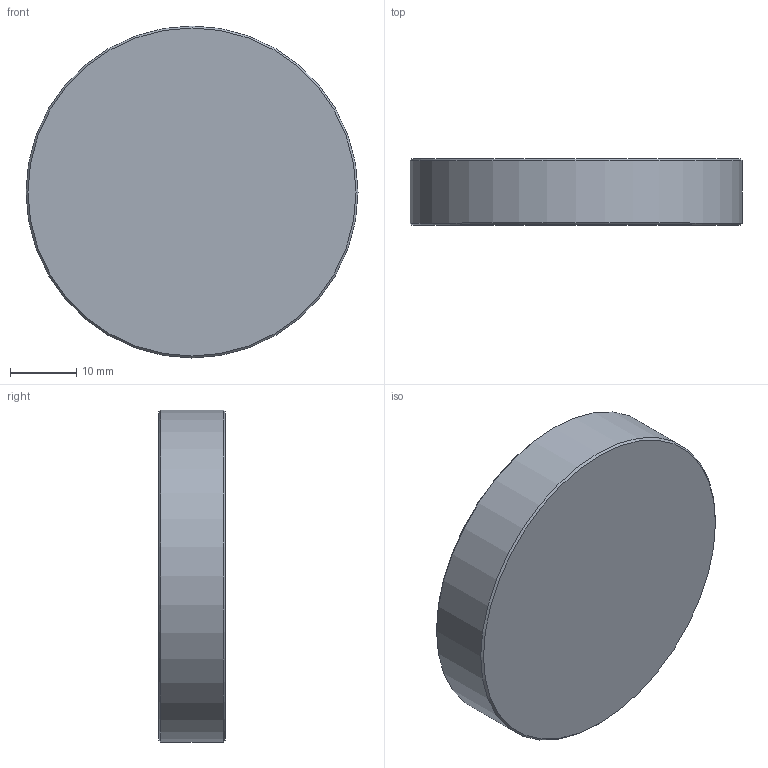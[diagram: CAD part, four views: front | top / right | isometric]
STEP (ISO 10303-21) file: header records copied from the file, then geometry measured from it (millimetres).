
FILE_DESCRIPTION(('G340759000'),'2;1');
FILE_NAME('Open CASCADE Shape Model','2022-10-05T11:12:16',(''),(''), 'Open CASCADE STEP processor 7.6','','Unknown');
FILE_SCHEMA(('AUTOMOTIVE_DESIGN { 1 0 10303 214 1 1 1 1 }'));
Length unit declared in the file: millimetre
Products named in the file (1): G340759000
Bounding box: 50 x 10 x 50 mm (x, y, z)
Volume: 19620.9 mm3; surface area: 5442.3 mm2
Topology: 1 solids, 1 shells, 5 faces, 7 edges, 4 vertices
Faces by surface type: cone 2, plane 2, cylinder 1
Full cylindrical faces by diameter (mm): 50 x1
Entity records: 218 total; most frequent: CARTESIAN_POINT 55, DIRECTION 23, ORIENTED_EDGE 14, PCURVE 14, DEFINITIONAL_REPRESENTATION 14, B_SPLINE_CURVE_WITH_KNOTS 12, AXIS2_PLACEMENT_3D 10, EDGE_CURVE 7
